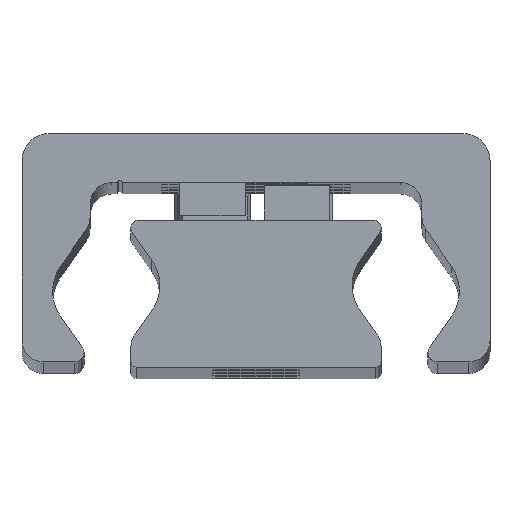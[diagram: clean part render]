
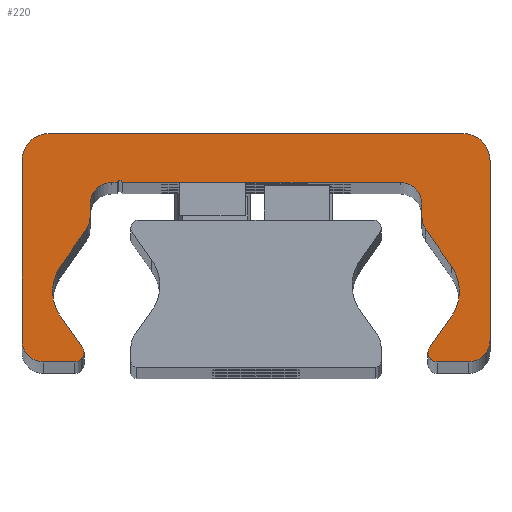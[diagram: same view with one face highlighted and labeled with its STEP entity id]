
A CAD part, top view. The second image highlights one B-rep face of the part: STEP entity #220.
In plain terms, the highlighted planar face has unit normal (0, 0, 1).
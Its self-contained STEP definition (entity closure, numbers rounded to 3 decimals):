
#220=ADVANCED_FACE('',(#570),#571,.T.);
#570=FACE_OUTER_BOUND('',#921,.T.);
#571=PLANE('',#922);
#921=EDGE_LOOP('',(#2122,#2123,#2124,#2125,#2126,#2127,#2128,#2129,#2130,#2131,#2132,#2133,#2134,#2135,#2136,#2137,#2138,#2139,#2140,#2141,#2142,#2143,#2144,#2145,#2146,#2147,#2148,#2149,#2150,#2151));
#922=AXIS2_PLACEMENT_3D('',#2152,#2153,#2154);
#2122=ORIENTED_EDGE('',*,*,#2399,.F.);
#2123=ORIENTED_EDGE('',*,*,#2582,.F.);
#2124=ORIENTED_EDGE('',*,*,#2385,.F.);
#2125=ORIENTED_EDGE('',*,*,#2581,.F.);
#2126=ORIENTED_EDGE('',*,*,#2577,.F.);
#2127=ORIENTED_EDGE('',*,*,#2574,.F.);
#2128=ORIENTED_EDGE('',*,*,#2571,.F.);
#2129=ORIENTED_EDGE('',*,*,#2568,.F.);
#2130=ORIENTED_EDGE('',*,*,#2565,.F.);
#2131=ORIENTED_EDGE('',*,*,#2562,.F.);
#2132=ORIENTED_EDGE('',*,*,#2559,.F.);
#2133=ORIENTED_EDGE('',*,*,#2556,.F.);
#2134=ORIENTED_EDGE('',*,*,#2553,.F.);
#2135=ORIENTED_EDGE('',*,*,#2550,.F.);
#2136=ORIENTED_EDGE('',*,*,#2391,.F.);
#2137=ORIENTED_EDGE('',*,*,#2548,.F.);
#2138=ORIENTED_EDGE('',*,*,#2393,.F.);
#2139=ORIENTED_EDGE('',*,*,#2547,.F.);
#2140=ORIENTED_EDGE('',*,*,#2543,.F.);
#2141=ORIENTED_EDGE('',*,*,#2540,.F.);
#2142=ORIENTED_EDGE('',*,*,#2537,.F.);
#2143=ORIENTED_EDGE('',*,*,#2534,.F.);
#2144=ORIENTED_EDGE('',*,*,#2531,.F.);
#2145=ORIENTED_EDGE('',*,*,#2528,.F.);
#2146=ORIENTED_EDGE('',*,*,#2525,.F.);
#2147=ORIENTED_EDGE('',*,*,#2522,.F.);
#2148=ORIENTED_EDGE('',*,*,#2519,.F.);
#2149=ORIENTED_EDGE('',*,*,#2516,.F.);
#2150=ORIENTED_EDGE('',*,*,#2513,.F.);
#2151=ORIENTED_EDGE('',*,*,#2510,.F.);
#2152=CARTESIAN_POINT('',(-0.023,14.187,297.0));
#2153=DIRECTION('',(0.0,0.0,1.0));
#2154=DIRECTION('',(1.0,0.0,0.0));
#2385=EDGE_CURVE('',#2900,#2903,#2904,.T.);
#2391=EDGE_CURVE('',#2913,#2909,#2915,.T.);
#2393=EDGE_CURVE('',#2916,#2919,#2920,.T.);
#2399=EDGE_CURVE('',#2929,#2925,#2931,.T.);
#2510=EDGE_CURVE('',#2925,#3110,#3111,.T.);
#2513=EDGE_CURVE('',#3110,#3115,#3116,.T.);
#2516=EDGE_CURVE('',#3115,#3120,#3121,.T.);
#2519=EDGE_CURVE('',#3120,#3125,#3126,.T.);
#2522=EDGE_CURVE('',#3125,#3130,#3131,.T.);
#2525=EDGE_CURVE('',#3130,#3135,#3136,.T.);
#2528=EDGE_CURVE('',#3135,#3140,#3141,.T.);
#2531=EDGE_CURVE('',#3140,#3145,#3146,.T.);
#2534=EDGE_CURVE('',#3145,#3150,#3151,.T.);
#2537=EDGE_CURVE('',#3150,#3155,#3156,.T.);
#2540=EDGE_CURVE('',#3155,#3160,#3161,.T.);
#2543=EDGE_CURVE('',#3160,#3165,#3166,.T.);
#2547=EDGE_CURVE('',#3165,#2916,#3171,.T.);
#2548=EDGE_CURVE('',#2919,#2913,#3172,.T.);
#2550=EDGE_CURVE('',#2909,#3174,#3175,.T.);
#2553=EDGE_CURVE('',#3174,#3179,#3180,.T.);
#2556=EDGE_CURVE('',#3179,#3184,#3185,.T.);
#2559=EDGE_CURVE('',#3184,#3189,#3190,.T.);
#2562=EDGE_CURVE('',#3189,#3194,#3195,.T.);
#2565=EDGE_CURVE('',#3194,#3199,#3200,.T.);
#2568=EDGE_CURVE('',#3199,#3204,#3205,.T.);
#2571=EDGE_CURVE('',#3204,#3209,#3210,.T.);
#2574=EDGE_CURVE('',#3209,#3214,#3215,.T.);
#2577=EDGE_CURVE('',#3214,#3219,#3220,.T.);
#2581=EDGE_CURVE('',#3219,#2900,#3225,.T.);
#2582=EDGE_CURVE('',#2903,#2929,#3226,.T.);
#2900=VERTEX_POINT('',#3652);
#2903=VERTEX_POINT('',#3656);
#2904=CIRCLE('',#3657,0.85);
#2909=VERTEX_POINT('',#3663);
#2913=VERTEX_POINT('',#3668);
#2915=CIRCLE('',#3671,0.85);
#2916=VERTEX_POINT('',#3672);
#2919=VERTEX_POINT('',#3676);
#2920=CIRCLE('',#3677,4.);
#2925=VERTEX_POINT('',#3683);
#2929=VERTEX_POINT('',#3688);
#2931=CIRCLE('',#3691,4.);
#3110=VERTEX_POINT('',#3928);
#3111=CIRCLE('',#3929,4.);
#3115=VERTEX_POINT('',#3934);
#3116=LINE('',#3935,#3936);
#3120=VERTEX_POINT('',#3942);
#3121=CIRCLE('',#3943,2.);
#3125=VERTEX_POINT('',#3948);
#3126=LINE('',#3949,#3950);
#3130=VERTEX_POINT('',#3956);
#3131=CIRCLE('',#3957,2.0);
#3135=VERTEX_POINT('',#3962);
#3136=LINE('',#3963,#3964);
#3140=VERTEX_POINT('',#3970);
#3141=CIRCLE('',#3971,0.25);
#3145=VERTEX_POINT('',#3976);
#3146=LINE('',#3977,#3978);
#3150=VERTEX_POINT('',#3984);
#3151=CIRCLE('',#3985,2.0);
#3155=VERTEX_POINT('',#3990);
#3156=LINE('',#3991,#3992);
#3160=VERTEX_POINT('',#3998);
#3161=CIRCLE('',#3999,2.0);
#3165=VERTEX_POINT('',#4004);
#3166=LINE('',#4005,#4006);
#3171=CIRCLE('',#4013,4.);
#3172=LINE('',#4014,#4015);
#3174=VERTEX_POINT('',#4018);
#3175=CIRCLE('',#4019,0.85);
#3179=VERTEX_POINT('',#4024);
#3180=LINE('',#4025,#4026);
#3184=VERTEX_POINT('',#4032);
#3185=CIRCLE('',#4033,2.);
#3189=VERTEX_POINT('',#4038);
#3190=LINE('',#4039,#4040);
#3194=VERTEX_POINT('',#4046);
#3195=CIRCLE('',#4047,2.5);
#3199=VERTEX_POINT('',#4052);
#3200=LINE('',#4053,#4054);
#3204=VERTEX_POINT('',#4060);
#3205=CIRCLE('',#4061,2.5);
#3209=VERTEX_POINT('',#4066);
#3210=LINE('',#4067,#4068);
#3214=VERTEX_POINT('',#4074);
#3215=CIRCLE('',#4075,2.);
#3219=VERTEX_POINT('',#4080);
#3220=LINE('',#4081,#4082);
#3225=CIRCLE('',#4089,0.85);
#3226=LINE('',#4090,#4091);
#3652=CARTESIAN_POINT('',(15.8,1.859,297.0));
#3656=CARTESIAN_POINT('',(15.922,2.298,297.0));
#3657=AXIS2_PLACEMENT_3D('',#4467,#4468,#4469);
#3663=CARTESIAN_POINT('',(-15.8,1.859,297.0));
#3668=CARTESIAN_POINT('',(-15.922,2.298,297.0));
#3671=AXIS2_PLACEMENT_3D('',#4479,#4480,#4481);
#3672=CARTESIAN_POINT('',(-18.688,7.509,297.0));
#3676=CARTESIAN_POINT('',(-17.964,5.214,297.0));
#3677=AXIS2_PLACEMENT_3D('',#4483,#4484,#4485);
#3683=CARTESIAN_POINT('',(18.688,7.509,297.0));
#3688=CARTESIAN_POINT('',(17.964,5.214,297.0));
#3691=AXIS2_PLACEMENT_3D('',#4495,#4496,#4497);
#3928=CARTESIAN_POINT('',(17.964,9.803,297.0));
#3929=AXIS2_PLACEMENT_3D('',#4712,#4713,#4714);
#3934=CARTESIAN_POINT('',(15.612,13.163,297.0));
#3935=CARTESIAN_POINT('',(15.612,13.163,297.0));
#3936=VECTOR('',#4719,1.0);
#3942=CARTESIAN_POINT('',(15.25,14.31,297.0));
#3943=AXIS2_PLACEMENT_3D('',#4722,#4723,#4724);
#3948=CARTESIAN_POINT('',(15.25,15.509,297.0));
#3949=CARTESIAN_POINT('',(15.25,15.509,297.0));
#3950=VECTOR('',#4729,1.0);
#3956=CARTESIAN_POINT('',(13.25,17.509,297.0));
#3957=AXIS2_PLACEMENT_3D('',#4732,#4733,#4734);
#3962=CARTESIAN_POINT('',(-12.25,17.509,297.0));
#3963=CARTESIAN_POINT('',(-12.25,17.509,297.0));
#3964=VECTOR('',#4739,1.0);
#3970=CARTESIAN_POINT('',(-12.75,17.509,297.0));
#3971=AXIS2_PLACEMENT_3D('',#4742,#4743,#4744);
#3976=CARTESIAN_POINT('',(-13.25,17.509,297.0));
#3977=CARTESIAN_POINT('',(-13.25,17.509,297.0));
#3978=VECTOR('',#4749,1.0);
#3984=CARTESIAN_POINT('',(-15.25,15.509,297.0));
#3985=AXIS2_PLACEMENT_3D('',#4752,#4753,#4754);
#3990=CARTESIAN_POINT('',(-15.25,14.31,297.0));
#3991=CARTESIAN_POINT('',(-15.25,14.31,297.0));
#3992=VECTOR('',#4759,1.0);
#3998=CARTESIAN_POINT('',(-15.612,13.163,297.0));
#3999=AXIS2_PLACEMENT_3D('',#4762,#4763,#4764);
#4004=CARTESIAN_POINT('',(-17.964,9.803,297.0));
#4005=CARTESIAN_POINT('',(-17.964,9.803,297.0));
#4006=VECTOR('',#4769,1.);
#4013=AXIS2_PLACEMENT_3D('',#4775,#4776,#4777);
#4014=CARTESIAN_POINT('',(-15.922,2.298,297.0));
#4015=VECTOR('',#4778,1.0);
#4018=CARTESIAN_POINT('',(-16.65,1.009,297.0));
#4019=AXIS2_PLACEMENT_3D('',#4780,#4781,#4782);
#4024=CARTESIAN_POINT('',(-19.5,1.009,297.0));
#4025=CARTESIAN_POINT('',(-19.5,1.009,297.0));
#4026=VECTOR('',#4787,1.0);
#4032=CARTESIAN_POINT('',(-21.5,3.009,297.0));
#4033=AXIS2_PLACEMENT_3D('',#4790,#4791,#4792);
#4038=CARTESIAN_POINT('',(-21.5,19.509,297.0));
#4039=CARTESIAN_POINT('',(-21.5,19.509,297.0));
#4040=VECTOR('',#4797,1.0);
#4046=CARTESIAN_POINT('',(-19.0,22.009,297.0));
#4047=AXIS2_PLACEMENT_3D('',#4800,#4801,#4802);
#4052=CARTESIAN_POINT('',(19.0,22.009,297.0));
#4053=CARTESIAN_POINT('',(19.0,22.009,297.0));
#4054=VECTOR('',#4807,1.0);
#4060=CARTESIAN_POINT('',(21.5,19.509,297.0));
#4061=AXIS2_PLACEMENT_3D('',#4810,#4811,#4812);
#4066=CARTESIAN_POINT('',(21.5,3.009,297.0));
#4067=CARTESIAN_POINT('',(21.5,3.009,297.0));
#4068=VECTOR('',#4817,1.0);
#4074=CARTESIAN_POINT('',(19.5,1.009,297.0));
#4075=AXIS2_PLACEMENT_3D('',#4820,#4821,#4822);
#4080=CARTESIAN_POINT('',(16.65,1.009,297.0));
#4081=CARTESIAN_POINT('',(16.65,1.009,297.0));
#4082=VECTOR('',#4827,1.0);
#4089=AXIS2_PLACEMENT_3D('',#4833,#4834,#4835);
#4090=CARTESIAN_POINT('',(17.964,5.214,297.0));
#4091=VECTOR('',#4836,1.0);
#4467=CARTESIAN_POINT('',(16.65,1.859,297.0));
#4468=DIRECTION('',(0.0,0.0,-1.0));
#4469=DIRECTION('',(1.0,0.0,0.0));
#4479=CARTESIAN_POINT('',(-16.65,1.859,297.0));
#4480=DIRECTION('',(0.0,0.0,-1.0));
#4481=DIRECTION('',(1.0,0.0,0.0));
#4483=CARTESIAN_POINT('',(-14.688,7.509,297.0));
#4484=DIRECTION('',(0.0,0.0,1.0));
#4485=DIRECTION('',(1.0,0.0,0.0));
#4495=CARTESIAN_POINT('',(14.688,7.509,297.0));
#4496=DIRECTION('',(0.0,0.0,1.0));
#4497=DIRECTION('',(1.0,0.0,0.0));
#4712=CARTESIAN_POINT('',(14.688,7.509,297.0));
#4713=DIRECTION('',(0.0,0.0,1.0));
#4714=DIRECTION('',(1.0,0.0,0.0));
#4719=DIRECTION('',(-0.574,0.819,0.0));
#4722=CARTESIAN_POINT('',(17.25,14.31,297.0));
#4723=DIRECTION('',(0.0,0.0,-1.0));
#4724=DIRECTION('',(1.0,0.0,0.0));
#4729=DIRECTION('',(0.0,1.0,0.0));
#4732=CARTESIAN_POINT('',(13.25,15.509,297.0));
#4733=DIRECTION('',(0.0,0.0,1.0));
#4734=DIRECTION('',(1.0,0.0,0.0));
#4739=DIRECTION('',(-1.0,-0.0,-0.0));
#4742=CARTESIAN_POINT('',(-12.5,17.509,297.0));
#4743=DIRECTION('',(0.0,0.0,1.0));
#4744=DIRECTION('',(1.0,0.0,0.0));
#4749=DIRECTION('',(-1.0,-0.0,-0.0));
#4752=CARTESIAN_POINT('',(-13.25,15.509,297.0));
#4753=DIRECTION('',(0.0,0.0,1.0));
#4754=DIRECTION('',(1.0,0.0,0.0));
#4759=DIRECTION('',(-0.0,-1.0,-0.0));
#4762=CARTESIAN_POINT('',(-17.25,14.31,297.0));
#4763=DIRECTION('',(0.0,0.0,-1.0));
#4764=DIRECTION('',(1.0,0.0,0.0));
#4769=DIRECTION('',(-0.574,-0.819,-0.0));
#4775=CARTESIAN_POINT('',(-14.688,7.509,297.0));
#4776=DIRECTION('',(0.0,0.0,1.0));
#4777=DIRECTION('',(1.0,0.0,0.0));
#4778=DIRECTION('',(0.574,-0.819,0.0));
#4780=CARTESIAN_POINT('',(-16.65,1.859,297.0));
#4781=DIRECTION('',(0.0,0.0,-1.0));
#4782=DIRECTION('',(1.0,0.0,0.0));
#4787=DIRECTION('',(-1.0,-0.0,-0.0));
#4790=CARTESIAN_POINT('',(-19.5,3.009,297.0));
#4791=DIRECTION('',(0.0,0.0,-1.0));
#4792=DIRECTION('',(1.0,0.0,0.0));
#4797=DIRECTION('',(0.0,1.0,0.0));
#4800=CARTESIAN_POINT('',(-19.0,19.509,297.0));
#4801=DIRECTION('',(0.0,0.0,-1.0));
#4802=DIRECTION('',(1.0,0.0,0.0));
#4807=DIRECTION('',(1.0,0.0,0.0));
#4810=CARTESIAN_POINT('',(19.0,19.509,297.0));
#4811=DIRECTION('',(0.0,0.0,-1.0));
#4812=DIRECTION('',(1.0,0.0,0.0));
#4817=DIRECTION('',(-0.0,-1.0,-0.0));
#4820=CARTESIAN_POINT('',(19.5,3.009,297.0));
#4821=DIRECTION('',(0.0,0.0,-1.0));
#4822=DIRECTION('',(1.0,0.0,0.0));
#4827=DIRECTION('',(-1.0,-0.0,-0.0));
#4833=CARTESIAN_POINT('',(16.65,1.859,297.0));
#4834=DIRECTION('',(0.0,0.0,-1.0));
#4835=DIRECTION('',(1.0,0.0,0.0));
#4836=DIRECTION('',(0.574,0.819,0.0));
